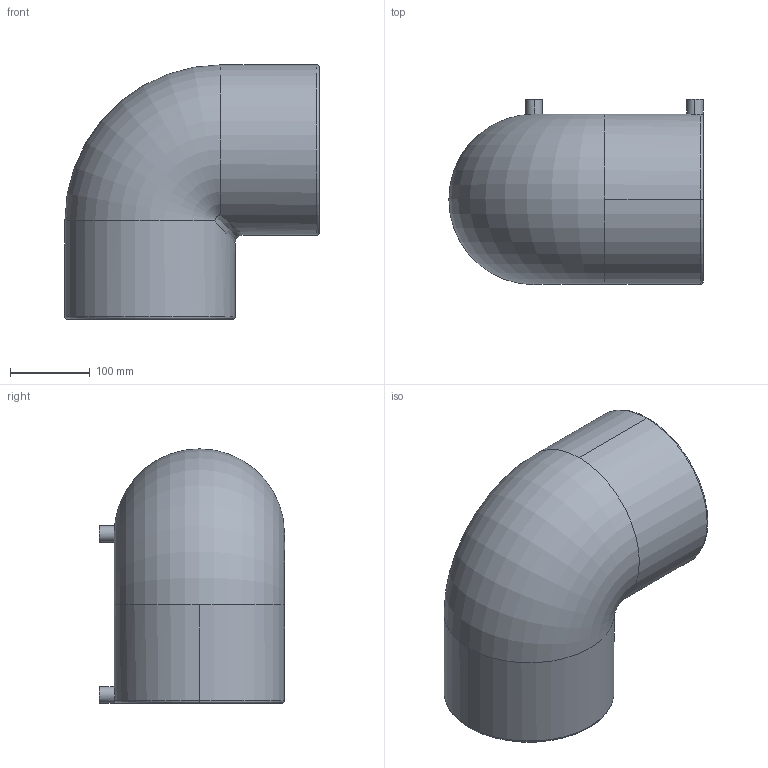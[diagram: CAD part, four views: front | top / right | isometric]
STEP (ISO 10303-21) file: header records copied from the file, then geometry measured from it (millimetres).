
FILE_DESCRIPTION (( 'STEP AP214' ), '1' );
FILE_NAME ('EBKHA160X90.STEP', '2021-05-14T13:30:45', ( 'D002203' ), ( 'Fusion Group Ltd.' ), 'SwSTEP 2.0', 'SolidWorks 2019', '' );
FILE_SCHEMA (( 'AUTOMOTIVE_DESIGN' ));
Length unit declared in the file: millimetre
Products named in the file (1): EBKHA160X90
Bounding box: 318 x 231.5 x 318 mm (x, y, z)
Volume: 6112939.1 mm3; surface area: 482493.6 mm2
Topology: 1 solids, 1 shells, 59 faces, 129 edges, 76 vertices
Faces by surface type: cylinder 24, torus 13, plane 10, cone 8, bspline 4
Entity records: 2244 total; most frequent: CARTESIAN_POINT 802, DIRECTION 300, ORIENTED_EDGE 254, AXIS2_PLACEMENT_3D 134, EDGE_CURVE 127, CIRCLE 78, VERTEX_POINT 76, EDGE_LOOP 67
